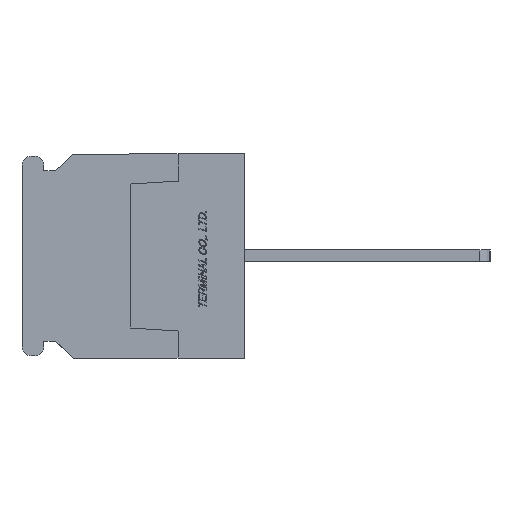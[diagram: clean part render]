
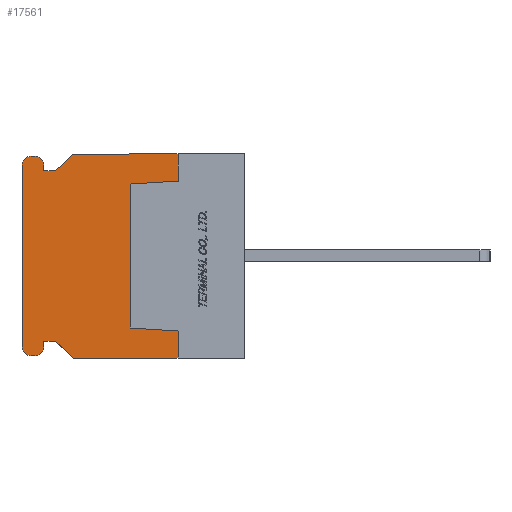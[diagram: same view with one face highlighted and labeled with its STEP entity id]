
A CAD part, left-side view. The second image highlights one B-rep face of the part: STEP entity #17561.
In plain terms, the highlighted planar face has unit normal (-1, 0, 0).
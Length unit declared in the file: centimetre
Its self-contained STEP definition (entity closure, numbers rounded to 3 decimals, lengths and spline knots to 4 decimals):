
#993=CIRCLE('',#30350,0.075);
#994=CIRCLE('',#30353,0.075);
#995=CIRCLE('',#30356,0.075);
#996=CIRCLE('',#30359,0.075);
#1777=VERTEX_POINT('',#25196);
#1778=VERTEX_POINT('',#25198);
#1779=VERTEX_POINT('',#25202);
#1780=VERTEX_POINT('',#25206);
#1781=VERTEX_POINT('',#25210);
#1782=VERTEX_POINT('',#25214);
#1783=VERTEX_POINT('',#25218);
#1784=VERTEX_POINT('',#25222);
#1785=VERTEX_POINT('',#25226);
#1786=VERTEX_POINT('',#25230);
#1787=VERTEX_POINT('',#25234);
#1788=VERTEX_POINT('',#25238);
#1789=VERTEX_POINT('',#25242);
#1790=VERTEX_POINT('',#25246);
#1791=VERTEX_POINT('',#25250);
#1792=VERTEX_POINT('',#25251);
#1793=VERTEX_POINT('',#25254);
#1794=VERTEX_POINT('',#25256);
#1795=VERTEX_POINT('',#25258);
#1796=VERTEX_POINT('',#25260);
#3500=VECTOR('',#20703,1.);
#3503=VECTOR('',#20707,1.);
#3505=VECTOR('',#20710,1.);
#3508=VECTOR('',#20718,1.);
#3511=VECTOR('',#20726,1.);
#3514=VECTOR('',#20734,1.);
#3517=VECTOR('',#20742,1.);
#3519=VECTOR('',#20745,1.);
#3521=VECTOR('',#20748,1.);
#3522=VECTOR('',#20750,1.);
#3523=VECTOR('',#20751,1.);
#3524=VECTOR('',#20752,1.);
#3525=VECTOR('',#20753,1.);
#3526=VECTOR('',#20754,1.);
#3527=VECTOR('',#20755,1.);
#3528=VECTOR('',#20756,1.);
#5462=LINE('',#25197,#3500);
#5465=LINE('',#25203,#3503);
#5467=LINE('',#25207,#3505);
#5470=LINE('',#25215,#3508);
#5473=LINE('',#25223,#3511);
#5476=LINE('',#25231,#3514);
#5479=LINE('',#25239,#3517);
#5481=LINE('',#25243,#3519);
#5483=LINE('',#25247,#3521);
#5484=LINE('',#25249,#3522);
#5485=LINE('',#25252,#3523);
#5486=LINE('',#25253,#3524);
#5487=LINE('',#25255,#3525);
#5488=LINE('',#25257,#3526);
#5489=LINE('',#25259,#3527);
#5490=LINE('',#25261,#3528);
#7828=EDGE_CURVE('',#1777,#1778,#5462,.T.);
#7831=EDGE_CURVE('',#1779,#1777,#5465,.T.);
#7833=EDGE_CURVE('',#1780,#1779,#5467,.T.);
#7835=EDGE_CURVE('',#1781,#1780,#993,.T.);
#7837=EDGE_CURVE('',#1782,#1781,#5470,.T.);
#7839=EDGE_CURVE('',#1783,#1782,#994,.T.);
#7841=EDGE_CURVE('',#1784,#1783,#5473,.T.);
#7843=EDGE_CURVE('',#1785,#1784,#995,.T.);
#7845=EDGE_CURVE('',#1786,#1785,#5476,.T.);
#7847=EDGE_CURVE('',#1787,#1786,#996,.T.);
#7849=EDGE_CURVE('',#1788,#1787,#5479,.T.);
#7851=EDGE_CURVE('',#1789,#1788,#5481,.T.);
#7853=EDGE_CURVE('',#1790,#1789,#5483,.T.);
#7854=EDGE_CURVE('',#1791,#1792,#5484,.T.);
#7855=EDGE_CURVE('',#1778,#1792,#5485,.T.);
#7856=EDGE_CURVE('',#1793,#1790,#5486,.T.);
#7857=EDGE_CURVE('',#1793,#1794,#5487,.T.);
#7858=EDGE_CURVE('',#1794,#1795,#5488,.T.);
#7859=EDGE_CURVE('',#1795,#1796,#5489,.T.);
#7860=EDGE_CURVE('',#1796,#1791,#5490,.T.);
#11427=ORIENTED_EDGE('',*,*,#7854,.T.);
#11428=ORIENTED_EDGE('',*,*,#7855,.F.);
#11429=ORIENTED_EDGE('',*,*,#7828,.F.);
#11430=ORIENTED_EDGE('',*,*,#7831,.F.);
#11431=ORIENTED_EDGE('',*,*,#7833,.F.);
#11432=ORIENTED_EDGE('',*,*,#7835,.F.);
#11433=ORIENTED_EDGE('',*,*,#7837,.F.);
#11434=ORIENTED_EDGE('',*,*,#7839,.F.);
#11435=ORIENTED_EDGE('',*,*,#7841,.F.);
#11436=ORIENTED_EDGE('',*,*,#7843,.F.);
#11437=ORIENTED_EDGE('',*,*,#7845,.F.);
#11438=ORIENTED_EDGE('',*,*,#7847,.F.);
#11439=ORIENTED_EDGE('',*,*,#7849,.F.);
#11440=ORIENTED_EDGE('',*,*,#7851,.F.);
#11441=ORIENTED_EDGE('',*,*,#7853,.F.);
#11442=ORIENTED_EDGE('',*,*,#7856,.F.);
#11443=ORIENTED_EDGE('',*,*,#7857,.T.);
#11444=ORIENTED_EDGE('',*,*,#7858,.T.);
#11445=ORIENTED_EDGE('',*,*,#7859,.T.);
#11446=ORIENTED_EDGE('',*,*,#7860,.T.);
#15377=EDGE_LOOP('',(#11427,#11428,#11429,#11430,#11431,#11432,#11433,#11434,
#11435,#11436,#11437,#11438,#11439,#11440,#11441,#11442,#11443,#11444,#11445,
#11446));
#16497=FACE_BOUND('',#15377,.T.);
#17561=ADVANCED_FACE('',(#16497),#18464,.F.);
#18464=PLANE('',#30363);
#20703=DIRECTION('',(0.,-0.731,0.682));
#20707=DIRECTION('',(0.,-1.,0.));
#20710=DIRECTION('',(0.,0.,-1.));
#20714=DIRECTION('',(1.,0.,0.));
#20715=DIRECTION('',(0.,0.,-0.075));
#20718=DIRECTION('',(0.,-1.,0.));
#20722=DIRECTION('',(1.,0.,0.));
#20723=DIRECTION('',(0.,0.,-0.075));
#20726=DIRECTION('',(0.,0.,1.));
#20730=DIRECTION('',(1.,0.,0.));
#20731=DIRECTION('',(0.,0.,-0.075));
#20734=DIRECTION('',(0.,1.,0.));
#20738=DIRECTION('',(1.,0.,0.));
#20739=DIRECTION('',(0.,0.,-0.075));
#20742=DIRECTION('',(0.,0.,-1.));
#20745=DIRECTION('',(0.,1.,0.));
#20748=DIRECTION('',(0.,0.731,0.682));
#20749=DIRECTION('',(1.,0.,0.));
#20750=DIRECTION('',(0.,0.,1.));
#20751=DIRECTION('',(0.,-1.,0.));
#20752=DIRECTION('',(0.,1.,0.));
#20753=DIRECTION('',(0.,0.,1.));
#20754=DIRECTION('',(0.,0.998,0.062));
#20755=DIRECTION('',(0.,0.,1.));
#20756=DIRECTION('',(0.,-0.998,0.062));
#25196=CARTESIAN_POINT('',(-1.,1.57,0.71));
#25197=CARTESIAN_POINT('',(-1.,1.57,0.71));
#25198=CARTESIAN_POINT('',(-1.,1.42,0.85));
#25202=CARTESIAN_POINT('',(-1.,1.67,0.71));
#25203=CARTESIAN_POINT('',(-1.,1.67,0.71));
#25206=CARTESIAN_POINT('',(-1.,1.67,0.755));
#25207=CARTESIAN_POINT('',(-1.,1.67,0.755));
#25210=CARTESIAN_POINT('',(-1.,1.745,0.83));
#25211=CARTESIAN_POINT('',(-1.,1.745,0.755));
#25214=CARTESIAN_POINT('',(-1.,1.775,0.83));
#25215=CARTESIAN_POINT('',(-1.,1.775,0.83));
#25218=CARTESIAN_POINT('',(-1.,1.85,0.755));
#25219=CARTESIAN_POINT('',(-1.,1.775,0.755));
#25222=CARTESIAN_POINT('',(-1.,1.85,-0.755));
#25223=CARTESIAN_POINT('',(-1.,1.85,-0.755));
#25226=CARTESIAN_POINT('',(-1.,1.775,-0.83));
#25227=CARTESIAN_POINT('',(-1.,1.775,-0.755));
#25230=CARTESIAN_POINT('',(-1.,1.745,-0.83));
#25231=CARTESIAN_POINT('',(-1.,1.745,-0.83));
#25234=CARTESIAN_POINT('',(-1.,1.67,-0.755));
#25235=CARTESIAN_POINT('',(-1.,1.745,-0.755));
#25238=CARTESIAN_POINT('',(-1.,1.67,-0.71));
#25239=CARTESIAN_POINT('',(-1.,1.67,-0.71));
#25242=CARTESIAN_POINT('',(-1.,1.57,-0.71));
#25243=CARTESIAN_POINT('',(-1.,1.57,-0.71));
#25246=CARTESIAN_POINT('',(-1.,1.42,-0.85));
#25247=CARTESIAN_POINT('',(-1.,1.42,-0.85));
#25248=CARTESIAN_POINT('',(-1.,0.9383,0.));
#25249=CARTESIAN_POINT('',(-1.,0.55,0.625));
#25250=CARTESIAN_POINT('',(-1.,0.55,0.625));
#25251=CARTESIAN_POINT('',(-1.,0.55,0.85));
#25252=CARTESIAN_POINT('',(-1.,1.42,0.85));
#25253=CARTESIAN_POINT('',(-1.,0.,-0.85));
#25254=CARTESIAN_POINT('',(-1.,0.55,-0.85));
#25255=CARTESIAN_POINT('',(-1.,0.55,-0.85));
#25256=CARTESIAN_POINT('',(-1.,0.55,-0.625));
#25257=CARTESIAN_POINT('',(-1.,0.55,-0.625));
#25258=CARTESIAN_POINT('',(-1.,0.95,-0.6));
#25259=CARTESIAN_POINT('',(-1.,0.95,-0.6));
#25260=CARTESIAN_POINT('',(-1.,0.95,0.6));
#25261=CARTESIAN_POINT('',(-1.,0.95,0.6));
#30350=AXIS2_PLACEMENT_3D('',#25211,#20714,#20715);
#30353=AXIS2_PLACEMENT_3D('',#25219,#20722,#20723);
#30356=AXIS2_PLACEMENT_3D('',#25227,#20730,#20731);
#30359=AXIS2_PLACEMENT_3D('',#25235,#20738,#20739);
#30363=AXIS2_PLACEMENT_3D('',#25248,#20749,$);
